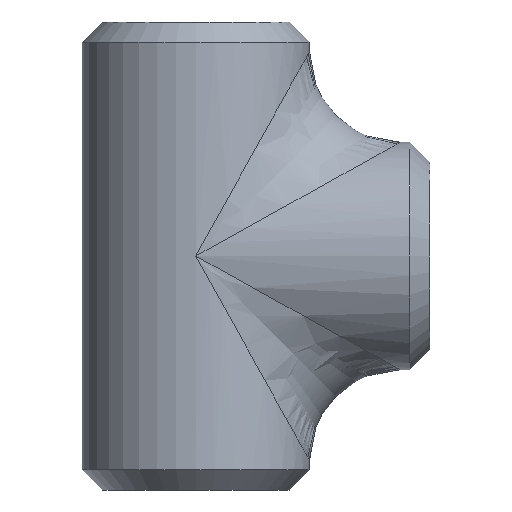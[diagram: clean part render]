
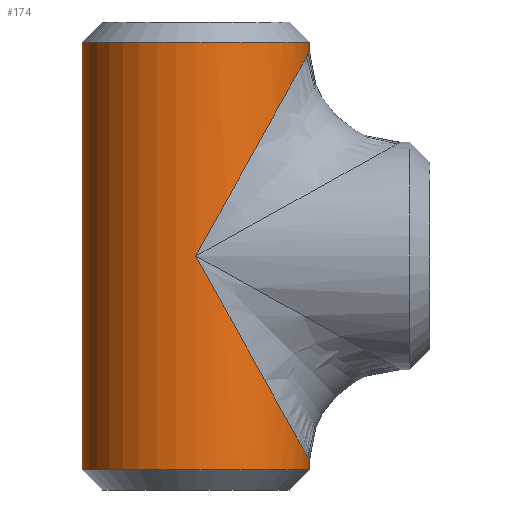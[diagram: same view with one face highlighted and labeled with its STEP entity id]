
A CAD part, front view. The second image highlights one B-rep face of the part: STEP entity #174.
In plain terms, the highlighted cylindrical face has radius 37 mm (diameter 74 mm), a partial arc.
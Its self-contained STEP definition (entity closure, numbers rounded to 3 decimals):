
#29 = LINE ( 'NONE', #256, #575 ) ;
#47 = CARTESIAN_POINT ( 'NONE',  ( 37., 0., 76.2 ) ) ;
#62 = CARTESIAN_POINT ( 'NONE',  ( 37., 0., 76.2 ) ) ;
#93 = ORIENTED_EDGE ( 'NONE', *, *, #1298, .T. ) ;
#112 = ORIENTED_EDGE ( 'NONE', *, *, #568, .F. ) ;
#119 = EDGE_CURVE ( 'NONE', #942, #1061, #579, .T. ) ;
#136 = DIRECTION ( 'NONE',  ( 0., 0., -1. ) ) ;
#150 = DIRECTION ( 'NONE',  ( 0., 0., -1. ) ) ;
#151 = CARTESIAN_POINT ( 'NONE',  ( 37., -21.674, -66.6 ) ) ;
#157 = CIRCLE ( 'NONE', #360, 37. ) ;
#174 = ADVANCED_FACE ( 'NONE', ( #1005 ), #1208, .T. ) ;
#189 = CARTESIAN_POINT ( 'NONE',  ( -37., 0., -69.63 ) ) ;
#204 = CARTESIAN_POINT ( 'NONE',  ( 0., 0., 69.63 ) ) ;
#219 = EDGE_CURVE ( 'NONE', #694, #765, #29, .T. ) ;
#256 = CARTESIAN_POINT ( 'NONE',  ( -37., 0., 76.2 ) ) ;
#259 = VECTOR ( 'NONE', #150, 1000. ) ;
#343 = DIRECTION ( 'NONE',  ( -1., 0., 0. ) ) ;
#348 = CARTESIAN_POINT ( 'NONE',  ( 0., -37., 0. ) ) ;
#351 = ORIENTED_EDGE ( 'NONE', *, *, #119, .F. ) ;
#360 = AXIS2_PLACEMENT_3D ( 'NONE', #768, #1004, #1213 ) ;
#391 = LINE ( 'NONE', #62, #259 ) ;
#395 =( BOUNDED_CURVE ( )  B_SPLINE_CURVE ( 3, ( #1218, #151, #780, #348 ),
 .UNSPECIFIED., .F., .T. ) 
 B_SPLINE_CURVE_WITH_KNOTS ( ( 4, 4 ),
 ( 3.142, 4.712 ),
 .UNSPECIFIED. ) 
 CURVE ( )  GEOMETRIC_REPRESENTATION_ITEM ( )  RATIONAL_B_SPLINE_CURVE ( ( 1., 0.805, 0.805, 1. ) ) 
 REPRESENTATION_ITEM ( '' )  );
#401 = AXIS2_PLACEMENT_3D ( 'NONE', #454, #136, #343 ) ;
#421 = DIRECTION ( 'NONE',  ( 1., 0., 0. ) ) ;
#427 = EDGE_CURVE ( 'NONE', #715, #1061, #831, .T. ) ;
#429 = CARTESIAN_POINT ( 'NONE',  ( -37., 0., 69.63 ) ) ;
#454 = CARTESIAN_POINT ( 'NONE',  ( 0., 0., 76.2 ) ) ;
#489 = ORIENTED_EDGE ( 'NONE', *, *, #427, .T. ) ;
#490 = CARTESIAN_POINT ( 'NONE',  ( 37., -21.674, 66.6 ) ) ;
#504 = ORIENTED_EDGE ( 'NONE', *, *, #219, .T. ) ;
#512 = VERTEX_POINT ( 'NONE', #1120 ) ;
#551 = CARTESIAN_POINT ( 'NONE',  ( 37., 0., 66.6 ) ) ;
#568 = EDGE_CURVE ( 'NONE', #1338, #512, #391, .T. ) ;
#575 = VECTOR ( 'NONE', #763, 1000. ) ;
#579 = LINE ( 'NONE', #47, #1185 ) ;
#604 = ORIENTED_EDGE ( 'NONE', *, *, #753, .T. ) ;
#648 = ORIENTED_EDGE ( 'NONE', *, *, #1317, .T. ) ;
#694 = VERTEX_POINT ( 'NONE', #429 ) ;
#715 = VERTEX_POINT ( 'NONE', #860 ) ;
#737 = EDGE_LOOP ( 'NONE', ( #351, #604, #504, #648, #112, #93, #489 ) ) ;
#753 = EDGE_CURVE ( 'NONE', #942, #694, #1028, .T. ) ;
#763 = DIRECTION ( 'NONE',  ( 0., 0., -1. ) ) ;
#765 = VERTEX_POINT ( 'NONE', #189 ) ;
#768 = CARTESIAN_POINT ( 'NONE',  ( 0., 0., -69.63 ) ) ;
#769 = DIRECTION ( 'NONE',  ( 0., 0., -1. ) ) ;
#780 = CARTESIAN_POINT ( 'NONE',  ( 21.674, -37., -39.013 ) ) ;
#814 = CARTESIAN_POINT ( 'NONE',  ( 21.674, -37., 39.013 ) ) ;
#831 =( BOUNDED_CURVE ( )  B_SPLINE_CURVE ( 3, ( #907, #814, #490, #1331 ),
 .UNSPECIFIED., .F., .F. ) 
 B_SPLINE_CURVE_WITH_KNOTS ( ( 4, 4 ),
 ( 1.571, 3.142 ),
 .UNSPECIFIED. ) 
 CURVE ( )  GEOMETRIC_REPRESENTATION_ITEM ( )  RATIONAL_B_SPLINE_CURVE ( ( 1., 0.805, 0.805, 1. ) ) 
 REPRESENTATION_ITEM ( '' )  );
#860 = CARTESIAN_POINT ( 'NONE',  ( 0., -37., 0. ) ) ;
#877 = CARTESIAN_POINT ( 'NONE',  ( 37., 0., -66.6 ) ) ;
#907 = CARTESIAN_POINT ( 'NONE',  ( 0., -37., 0. ) ) ;
#918 = AXIS2_PLACEMENT_3D ( 'NONE', #204, #1072, #421 ) ;
#942 = VERTEX_POINT ( 'NONE', #1083 ) ;
#1004 = DIRECTION ( 'NONE',  ( 0., 0., 1. ) ) ;
#1005 = FACE_OUTER_BOUND ( 'NONE', #737, .T. ) ;
#1028 = CIRCLE ( 'NONE', #918, 37. ) ;
#1061 = VERTEX_POINT ( 'NONE', #551 ) ;
#1072 = DIRECTION ( 'NONE',  ( 0., 0., -1. ) ) ;
#1083 = CARTESIAN_POINT ( 'NONE',  ( 37., 0., 69.63 ) ) ;
#1120 = CARTESIAN_POINT ( 'NONE',  ( 37., 0., -69.63 ) ) ;
#1185 = VECTOR ( 'NONE', #769, 1000. ) ;
#1208 = CYLINDRICAL_SURFACE ( 'NONE', #401, 37. ) ;
#1213 = DIRECTION ( 'NONE',  ( 1., 0., 0. ) ) ;
#1218 = CARTESIAN_POINT ( 'NONE',  ( 37., 0., -66.6 ) ) ;
#1298 = EDGE_CURVE ( 'NONE', #1338, #715, #395, .T. ) ;
#1317 = EDGE_CURVE ( 'NONE', #765, #512, #157, .T. ) ;
#1331 = CARTESIAN_POINT ( 'NONE',  ( 37., 0., 66.6 ) ) ;
#1338 = VERTEX_POINT ( 'NONE', #877 ) ;
